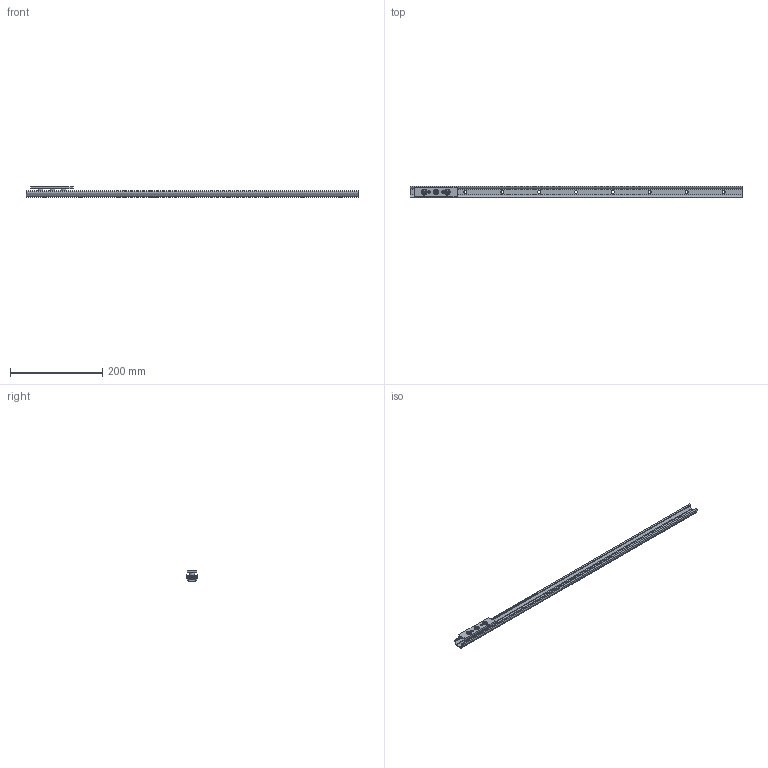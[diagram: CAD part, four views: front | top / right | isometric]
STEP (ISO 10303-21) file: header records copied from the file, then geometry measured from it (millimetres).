
FILE_DESCRIPTION( ( 'STEP AP214' ), '1' );
FILE_NAME( 'p:/temp/worker_19/temp/exporttempdir_83944_356_LTdsH/format_0/TEN26-0720-CEN26-92.stp', '2020-05-08T18:37:34', ( 'License CC BY-ND 4.0' ), ( 'CADENAS' ), ' ', 'PARTsolutions', ' ' );
FILE_SCHEMA( ( 'AUTOMOTIVE_DESIGN { 1 0 10303 214 1 1 1 1 }' ) );
Length unit declared in the file: millimetre
Products named in the file (6): TEN26-0720-CEN26-92; _TEN 26-720; _CEN26-92_1; _RLN26(11.2_M5); _RLA26(11.2_M5); _LAN-26
Assembly tree (8 placements, depth 2):
  TEN26-0720-CEN26-92
    _TEN 26-720
    _CEN26-92_1
    _RLN26(11.2_M5)  x2
    _RLA26(11.2_M5)
    _LAN-26  x3
Bounding box: 720 x 26 x 22 mm (x, y, z)
Volume: 87997.7 mm3; surface area: 73114.3 mm2
Topology: 8 solids, 8 shells, 242 faces, 528 edges, 329 vertices
Faces by surface type: plane 131, cylinder 78, cone 24, bspline 9
Full cylindrical faces by diameter (mm): 2.5 x2, 4.134 x5, 4.5 x3, 5 x6, 6.5 x9, 9.3 x3, 11.2 x6, 11.6 x6, 15.7 x6, 16.7 x6
Entity records: 5636 total; most frequent: CARTESIAN_POINT 830, DIRECTION 766, ORIENTED_EDGE 570, AXIS2_PLACEMENT_3D 319, EDGE_CURVE 285, EDGE_LOOP 268, VERTEX_POINT 215, FACE_OUTER_BOUND 202
